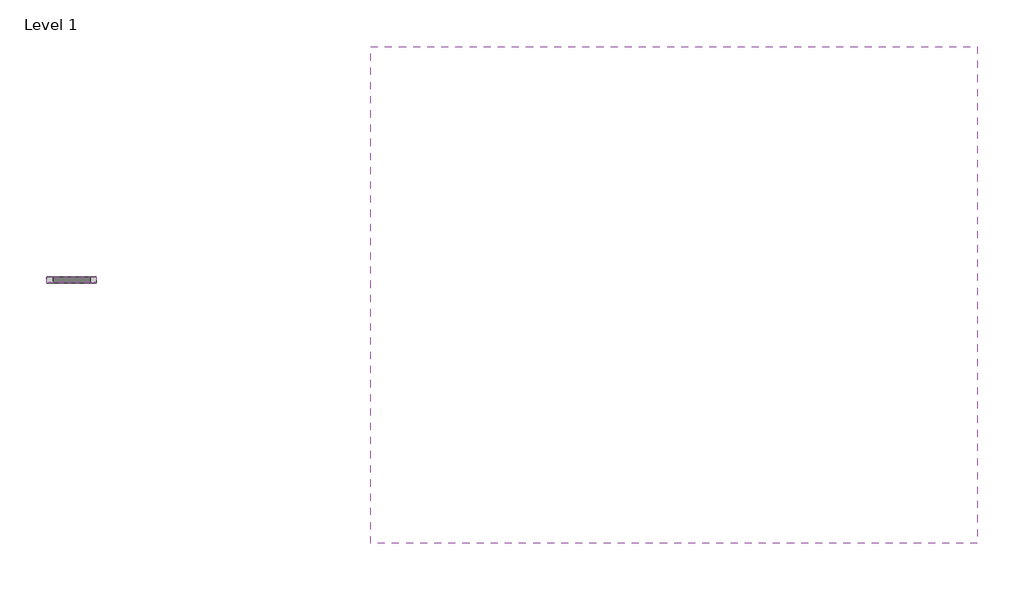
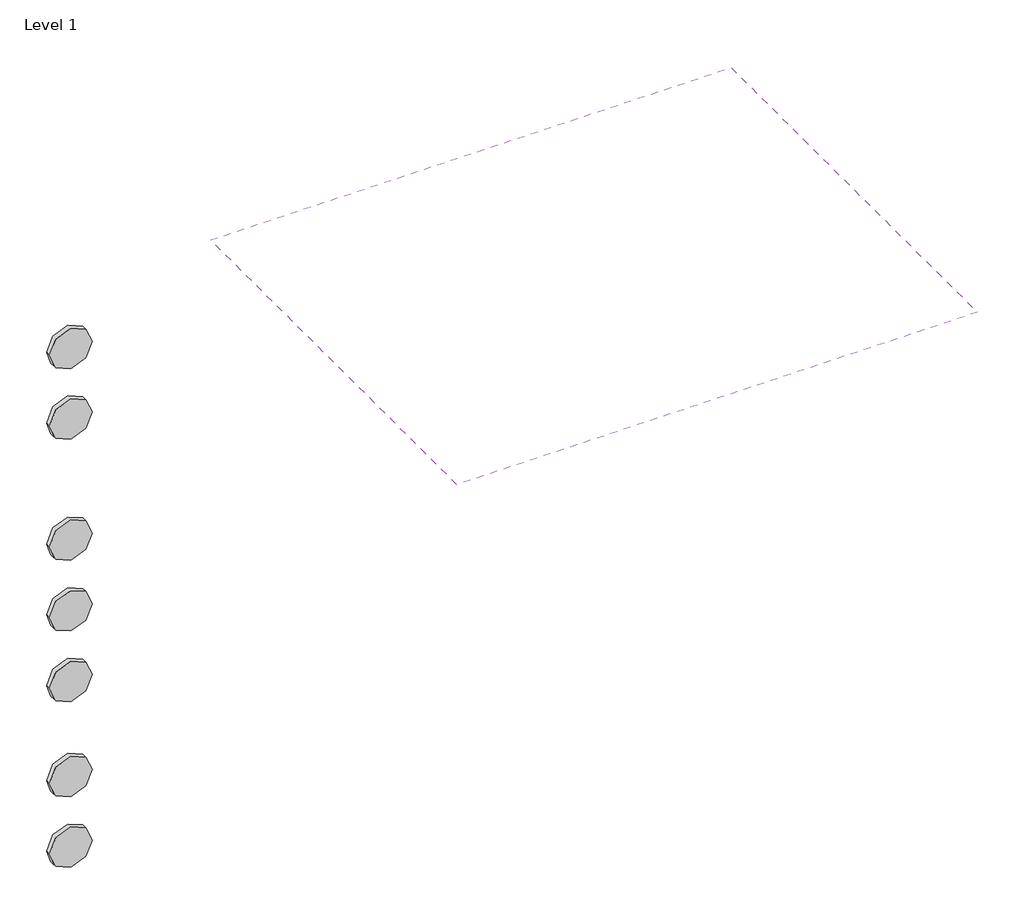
# One storey, incomplete: 7 proxies, 1 covering.
"""IFC4 building model written with IfcOpenShell, lengths in millimetres."""

import ifcopenshell
import ifcopenshell.guid

model = None  # the IFC model being written
_history = None  # IfcOwnerHistory: only IFC2X3 demands one
_inside = {}  # id of a spatial element -> (the spatial element, [elements in it])
_under = {}  # id of a project, library or spatial element -> (it, [spatial elements below it])
_declared = {}  # id of a project -> (the project, [libraries it declares])
_typed = {}  # id of a type object -> (the type object, [elements of that type])
_made_of = {}  # id of a material, layer set ... -> (it, [elements and type objects made of it])


def new_model(schema):
    """Start an empty IFC model of exactly this schema.

    Asked for "IFC4X3", IfcOpenShell would pick the latest addendum, in which some entities
    have other attributes; the version numbers below select the first issue.
    IFC2X3 requires an IfcOwnerHistory on every rooted entity: one is made here for all.
    """
    global model, _history
    if schema == "IFC4X3":
        model = ifcopenshell.file(schema_version=(4, 3, 0, 0))
    else:
        model = ifcopenshell.file(schema=schema)
    _inside.clear()
    _under.clear()
    _declared.clear()
    _typed.clear()
    _made_of.clear()
    _history = None
    if model.schema == "IFC2X3":
        org = make("IfcOrganization", Name="unknown")
        user = make(
            "IfcPersonAndOrganization",
            ThePerson=make("IfcPerson", FamilyName="unknown"),
            TheOrganization=org,
        )
        app = make(
            "IfcApplication",
            ApplicationDeveloper=org,
            Version="unknown",
            ApplicationFullName="unknown",
            ApplicationIdentifier="unknown",
        )
        _history = make(
            "IfcOwnerHistory",
            OwningUser=user,
            OwningApplication=app,
            ChangeAction="ADDED",
            CreationDate=0,
        )
    return model


def make(cls, **values):
    """One entity of the class cls with the attributes given. An attribute that is None is left unset."""
    return model.create_entity(
        cls, **{name: value for name, value in values.items() if value is not None}
    )


def rooted(cls, **values):
    """An entity with a GlobalId (a new one), such as an element, a storey or a relation."""
    return make(cls, GlobalId=ifcopenshell.guid.new(), OwnerHistory=_history, **values)


def si_unit(unit_type, name, prefix=None):
    """IfcSIUnit, for example si_unit("LENGTHUNIT", "METRE", prefix="MILLI")."""
    return make("IfcSIUnit", UnitType=unit_type, Prefix=prefix, Name=name)


def assignment(units):
    """IfcUnitAssignment: the units of a project."""
    return None if units is None else make("IfcUnitAssignment", Units=units)


def point(xyz):
    """IfcCartesianPoint."""
    return None if xyz is None else make("IfcCartesianPoint", Coordinates=xyz)


def direction(xyz):
    """IfcDirection."""
    return None if xyz is None else make("IfcDirection", DirectionRatios=xyz)


def frame(location, z_axis=None, x_axis=None):
    """IfcAxis2Placement3D, a coordinate frame: its origin and axes. An axis left out is left unset."""
    return make(
        "IfcAxis2Placement3D",
        Location=point(location),
        Axis=direction(z_axis),
        RefDirection=direction(x_axis),
    )


def frame_2d(location, x_axis=None):
    """IfcAxis2Placement2D, a coordinate frame in the plane: its origin and x axis."""
    return make(
        "IfcAxis2Placement2D", Location=point(location), RefDirection=direction(x_axis)
    )


def origin():
    """The frame at (0, 0, 0) with its axes left unset."""
    return frame((0.0, 0.0, 0.0))


def place(relative_to, where):
    """IfcLocalPlacement: puts the frame where relative to a parent placement (None: the world)."""
    return make(
        "IfcLocalPlacement", PlacementRelTo=relative_to, RelativePlacement=where
    )


def context(
    kind, dimensions, precision=None, world=None, true_north=None, identifier=None
):
    """IfcGeometricRepresentationContext, for example the 3D "Model" context."""
    return make(
        "IfcGeometricRepresentationContext",
        ContextIdentifier=identifier,
        ContextType=kind,
        CoordinateSpaceDimension=dimensions,
        Precision=precision,
        WorldCoordinateSystem=world,
        TrueNorth=true_north,
    )


def project(units=None, contexts=None):
    """IfcProject with its units and contexts."""
    return rooted(
        "IfcProject",
        Name="project",
        RepresentationContexts=contexts,
        UnitsInContext=assignment(units),
    )


def spatial(cls, under=None, at=None, **own):
    """A site, building, storey or space (cls), placed at a placement, below another one or the project."""
    s = rooted(cls, ObjectPlacement=at, **own)
    if under is not None:
        _under.setdefault(under.id(), (under, []))[1].append(s)
    return s


def polyline(points):
    """IfcPolyline through the points."""
    return make("IfcPolyline", Points=[point(p) for p in points])


def circle_curve(where, radius):
    """IfcCircle in the frame where."""
    return make("IfcCircle", Position=where, Radius=radius)


def trimmed(basis, trim1, trim2, sense, master):
    """IfcTrimmedCurve: the piece of a basis curve between two trims."""
    return make(
        "IfcTrimmedCurve",
        BasisCurve=basis,
        Trim1=trim1,
        Trim2=trim2,
        SenseAgreement=sense,
        MasterRepresentation=master,
    )


def segment(curve, same_sense, transition):
    """IfcCompositeCurveSegment."""
    return make(
        "IfcCompositeCurveSegment",
        Transition=transition,
        SameSense=same_sense,
        ParentCurve=curve,
    )


def composite_curve(segments, self_intersect=None):
    """IfcCompositeCurve: segments joined end to end."""
    return make("IfcCompositeCurve", Segments=segments, SelfIntersect=self_intersect)


def outline(outer, holes=None, kind="AREA"):
    """IfcArbitraryClosedProfileDef: a profile drawn as a closed curve; with holes, ...WithVoids."""
    if holes is None:
        return make("IfcArbitraryClosedProfileDef", ProfileType=kind, OuterCurve=outer)
    return make(
        "IfcArbitraryProfileDefWithVoids",
        ProfileType=kind,
        OuterCurve=outer,
        InnerCurves=holes,
    )


def extrude(swept, where, along, depth):
    """IfcExtrudedAreaSolid: the profile swept, set in the frame where, extruded along a direction by depth."""
    return make(
        "IfcExtrudedAreaSolid",
        SweptArea=swept,
        Position=where,
        ExtrudedDirection=direction(along),
        Depth=depth,
    )


def shape(context_of_items, identifier, shape_type, items):
    """IfcShapeRepresentation: the items that make up one representation, for example the "Body"."""
    return make(
        "IfcShapeRepresentation",
        ContextOfItems=context_of_items,
        RepresentationIdentifier=identifier,
        RepresentationType=shape_type,
        Items=items,
    )


def source(mapping_origin, context_of_items, identifier, shape_type, items):
    """IfcRepresentationMap: a shape defined once, which mapped items show again and again."""
    return make(
        "IfcRepresentationMap",
        MappingOrigin=mapping_origin,
        MappedRepresentation=shape(context_of_items, identifier, shape_type, items),
    )


def transform(
    local_origin,
    x_axis=None,
    y_axis=None,
    z_axis=None,
    scale=None,
    scale2=None,
    scale3=None,
    uniform=True,
):
    """IfcCartesianTransformationOperator3D, or its non-uniform kind. x_axis, y_axis, z_axis: its Axis1, 2, 3."""
    if uniform:
        return make(
            "IfcCartesianTransformationOperator3D",
            Axis1=direction(x_axis),
            Axis2=direction(y_axis),
            LocalOrigin=point(local_origin),
            Scale=scale,
            Axis3=direction(z_axis),
        )
    return make(
        "IfcCartesianTransformationOperator3DnonUniform",
        Axis1=direction(x_axis),
        Axis2=direction(y_axis),
        LocalOrigin=point(local_origin),
        Scale=scale,
        Axis3=direction(z_axis),
        Scale2=scale2,
        Scale3=scale3,
    )


def mapped(mapping_source, mapping_target):
    """IfcMappedItem: shows the shape of a source again, moved by a transform."""
    return make(
        "IfcMappedItem", MappingSource=mapping_source, MappingTarget=mapping_target
    )


def made_of(thing, what):
    """Note that an element or type object is made of a material, layer set ...; save() writes the relation."""
    if what is not None:
        _made_of.setdefault(what.id(), (what, []))[1].append(thing)
    return thing


def element(
    cls,
    number,
    at=None,
    inside=None,
    cuts=None,
    type_object=None,
    material=None,
    context=None,
    identifier="Body",
    shape_type=None,
    held_by="IfcProductDefinitionShape",
    body=None,
    shapes=None,
    **own,
):
    """One element of the class cls, such as IfcWall. Its Tag is "e" and its number.

    at: its placement. inside: the storey or other place that contains it. cuts: it is an
    opening in that element (IfcRelVoidsElement). A single representation is given by context,
    identifier, shape_type and body (its items); several are given by shapes. held_by: the class
    of the entity that holds the representations. save() writes the other relations.
    """
    e = rooted(cls, Tag="e%d" % number, ObjectPlacement=at, **own)
    if body is not None:
        shapes = [shape(context, identifier, shape_type, body)]
    if shapes is not None:
        e.Representation = make(held_by, Representations=shapes)
    if inside is not None:
        _inside.setdefault(inside.id(), (inside, []))[1].append(e)
    if cuts is not None:
        rooted(
            "IfcRelVoidsElement", RelatingBuildingElement=cuts, RelatedOpeningElement=e
        )
    if type_object is not None:
        _typed.setdefault(type_object.id(), (type_object, []))[1].append(e)
    return made_of(e, material)


def aggregate(whole, parts):
    """IfcRelAggregates: a whole, such as a stair, and the parts it consists of."""
    return rooted("IfcRelAggregates", RelatingObject=whole, RelatedObjects=parts)


def save(model, path):
    """Write the relations noted so far, then the file.

    IfcRelAggregates (storeys below a building ...), IfcRelContainedInSpatialStructure (elements
    in a storey), IfcRelDefinesByType, IfcRelAssociatesMaterial and IfcRelDeclares: one each for
    every whole, place, type object, material and project.
    """
    for whole, parts in _under.values():
        aggregate(whole, parts)
    for where, things in _inside.values():
        rooted(
            "IfcRelContainedInSpatialStructure",
            RelatedElements=things,
            RelatingStructure=where,
        )
    for kind, things in _typed.values():
        rooted("IfcRelDefinesByType", RelatedObjects=things, RelatingType=kind)
    for what, things in _made_of.values():
        rooted("IfcRelAssociatesMaterial", RelatedObjects=things, RelatingMaterial=what)
    for by, libraries in _declared.values():
        rooted("IfcRelDeclares", RelatingContext=by, RelatedDefinitions=libraries)
    model.write(path)


def materialmodel_materialmodel_73a78689(model_context):
    return source(origin(), model_context, "Body", "SweptSolid", [
        extrude(outline(composite_curve([segment(trimmed(circle_curve(frame_2d((75.0, 0.0)), 50.0), [point((75.0, -50.0))], [point((75.0, 50.0))], False, "CARTESIAN"), True, "CONTINUOUS"), segment(trimmed(circle_curve(frame_2d((75.0, 0.0)), 50.0), [point((75.0, 50.0))], [point((75.0, -50.0))], False, "CARTESIAN"), True, "CONTINUOUS")], self_intersect=False)), frame((0.0, -11.8565782, 0.0), z_axis=(0.0, 1.0, 0.0), x_axis=(0.0, 0.0, 1.0)), (0.0, 0.0, 1.0), 11.8565782),
    ])


model = new_model("IFC4")

# Units and contexts
model_context = context("Model", 3, world=origin())
ifc_project = project(units=[si_unit("LENGTHUNIT", "METRE", prefix="MILLI")], contexts=[model_context])

# Site, building, storey
site = spatial("IfcSite", under=ifc_project)
building = spatial("IfcBuilding", under=site)
storey = spatial("IfcBuildingStorey", under=building, Name="Level 1", Elevation=0.0)

# Proxies
placement = place(None, origin())
materialmodel_materialmodel_shape = materialmodel_materialmodel_73a78689(model_context)
element("IfcBuildingElementProxy", 1, Name="MaterialModel : MaterialModel", ObjectType="MaterialModel : MaterialModel", at=placement, inside=storey, context=model_context, shape_type="MappedRepresentation", body=[
    mapped(materialmodel_materialmodel_shape, transform((-15082.809792, 6097.5863071, 1680.2296761), x_axis=(1.0, 0.0, 0.0), y_axis=(0.0, 1.0, 0.0), z_axis=(0.0, 0.0, 1.0))),
])
element("IfcBuildingElementProxy", 2, Name="MaterialModel : MaterialModel", ObjectType="MaterialModel : MaterialModel", at=placement, inside=storey, context=model_context, shape_type="MappedRepresentation", body=[
    mapped(materialmodel_materialmodel_shape, transform((-15082.809792, 6097.5863071, 2155.4161759), x_axis=(1.0, 0.0, 0.0), y_axis=(0.0, 1.0, 0.0), z_axis=(0.0, 0.0, 1.0))),
])
element("IfcBuildingElementProxy", 3, Name="MaterialModel : MaterialModel", ObjectType="MaterialModel : MaterialModel", at=placement, inside=storey, context=model_context, shape_type="MappedRepresentation", body=[
    mapped(materialmodel_materialmodel_shape, transform((-15082.809792, 6097.5863071, 1980.4161759), x_axis=(1.0, 0.0, 0.0), y_axis=(0.0, 1.0, 0.0), z_axis=(0.0, 0.0, 1.0))),
])
element("IfcBuildingElementProxy", 4, Name="MaterialModel : MaterialModel", ObjectType="MaterialModel : MaterialModel", at=placement, inside=storey, context=model_context, shape_type="MappedRepresentation", body=[
    mapped(materialmodel_materialmodel_shape, transform((-15082.809792, 6097.5863071, 1094.5812505), x_axis=(1.0, 0.0, 0.0), y_axis=(0.0, 1.0, 0.0), z_axis=(0.0, 0.0, 1.0))),
])
element("IfcBuildingElementProxy", 5, Name="MaterialModel : MaterialModel", ObjectType="MaterialModel : MaterialModel", at=placement, inside=storey, context=model_context, shape_type="MappedRepresentation", body=[
    mapped(materialmodel_materialmodel_shape, transform((-15082.809792, 6097.5863071, 919.5812505), x_axis=(1.0, 0.0, 0.0), y_axis=(0.0, 1.0, 0.0), z_axis=(0.0, 0.0, 1.0))),
])
element("IfcBuildingElementProxy", 6, Name="MaterialModel : MaterialModel", ObjectType="MaterialModel : MaterialModel", at=placement, inside=storey, context=model_context, shape_type="MappedRepresentation", body=[
    mapped(materialmodel_materialmodel_shape, transform((-15082.809792, 6097.5863071, 1505.2296761), x_axis=(1.0, 0.0, 0.0), y_axis=(0.0, 1.0, 0.0), z_axis=(0.0, 0.0, 1.0))),
])
element("IfcBuildingElementProxy", 7, Name="MaterialModel : MaterialModel", ObjectType="MaterialModel : MaterialModel", at=placement, inside=storey, context=model_context, shape_type="MappedRepresentation", body=[
    mapped(materialmodel_materialmodel_shape, transform((-15082.809792, 6097.5863071, 1330.2296761), x_axis=(1.0, 0.0, 0.0), y_axis=(0.0, 1.0, 0.0), z_axis=(0.0, 0.0, 1.0))),
])

# Covering
element("IfcCovering", 8, ObjectType="600 x 1200mm Grid", at=placement, inside=storey, context=model_context, shape_type="SweptSolid", body=[
    extrude(outline(polyline([(-13260.883584, 6561.1087432), (-13260.883584, 5561.1087432), (-14480.883584, 5561.1087432), (-14480.883584, 6561.1087432), (-13260.883584, 6561.1087432)])), frame((0.0, 0.0, 2000.0), z_axis=(0.0, 0.0, 1.0), x_axis=(1.0, 0.0, 0.0)), (0.0, 0.0, 1.0), 52.0),
])

save(model, "model.ifc")
